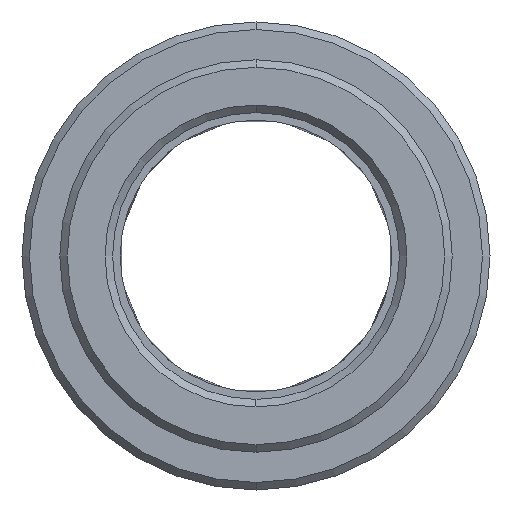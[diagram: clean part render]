
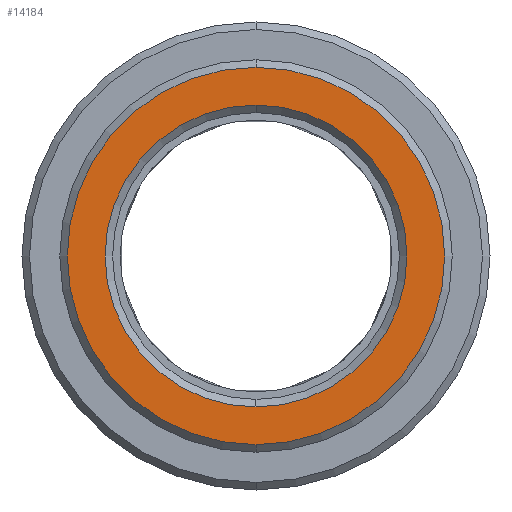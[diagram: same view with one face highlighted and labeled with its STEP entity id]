
A CAD part, left-side view. The second image highlights one B-rep face of the part: STEP entity #14184.
In plain terms, the highlighted planar face has unit normal (-1, 0, 0).
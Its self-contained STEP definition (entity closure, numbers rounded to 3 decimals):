
#5581=CARTESIAN_POINT('',(-8.,0.,0.));
#5582=DIRECTION('',(1.,0.,0.));
#5583=DIRECTION('',(0.,0.,1.));
#5584=AXIS2_PLACEMENT_3D('',#5581,#5582,#5583);
#5586=CARTESIAN_POINT('',(-8.,0.,
0.));
#5587=DIRECTION('',(1.,0.,0.));
#5588=DIRECTION('',(0.,0.,-1.));
#5589=AXIS2_PLACEMENT_3D('',#5586,#5587,#5588);
#5591=CARTESIAN_POINT('',(-8.,0.,0.));
#5592=DIRECTION('',(1.,0.,0.));
#5593=DIRECTION('',(0.,0.,1.));
#5594=AXIS2_PLACEMENT_3D('',#5591,#5592,#5593);
#5596=CARTESIAN_POINT('',(-8.,0.,0.));
#5597=DIRECTION('',(1.,0.,0.));
#5598=DIRECTION('',(0.,0.,-1.));
#5599=AXIS2_PLACEMENT_3D('',#5596,#5597,#5598);
#11896=CARTESIAN_POINT('',(-8.,0.,10.));
#11897=CARTESIAN_POINT('',(-8.,0.,-10.));
#11898=VERTEX_POINT('',#11896);
#11899=VERTEX_POINT('',#11897);
#11904=CARTESIAN_POINT('',(-8.,0.,12.5));
#11905=CARTESIAN_POINT('',(-8.,0.,-12.5));
#11906=VERTEX_POINT('',#11904);
#11907=VERTEX_POINT('',#11905);
#14168=CARTESIAN_POINT('',(-8.,0.,0.));
#14169=DIRECTION('',(1.,0.,0.));
#14170=DIRECTION('',(0.,0.,1.));
#14171=AXIS2_PLACEMENT_3D('',#14168,#14169,#14170);
#14172=PLANE('',#14171);
#14174=ORIENTED_EDGE('',*,*,#14173,.T.);
#14176=ORIENTED_EDGE('',*,*,#14175,.T.);
#14177=EDGE_LOOP('',(#14174,#14176));
#14178=FACE_OUTER_BOUND('',#14177,.F.);
#14179=ORIENTED_EDGE('',*,*,#14158,.F.);
#14181=ORIENTED_EDGE('',*,*,#14180,.F.);
#14182=EDGE_LOOP('',(#14179,#14181));
#14183=FACE_BOUND('',#14182,.F.);
#14184=ADVANCED_FACE('',(#14178,#14183),#14172,.F.);
#5585=CIRCLE('',#5584,12.5);
#5590=CIRCLE('',#5589,12.5);
#5595=CIRCLE('',#5594,10.);
#5600=CIRCLE('',#5599,10.);
#14158=EDGE_CURVE('',#11898,#11899,#5595,.T.);
#14173=EDGE_CURVE('',#11906,#11907,#5585,.T.);
#14175=EDGE_CURVE('',#11907,#11906,#5590,.T.);
#14180=EDGE_CURVE('',#11899,#11898,#5600,.T.);
